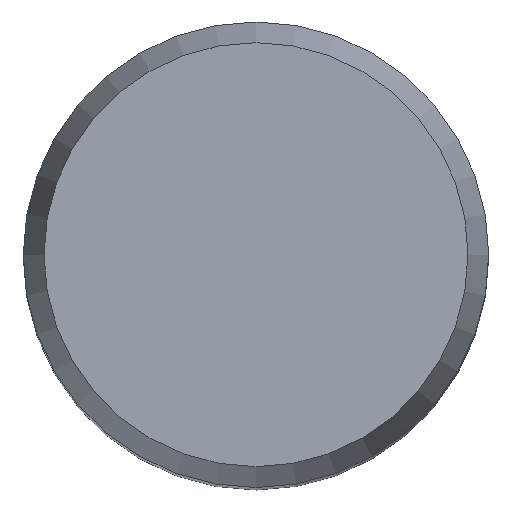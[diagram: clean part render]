
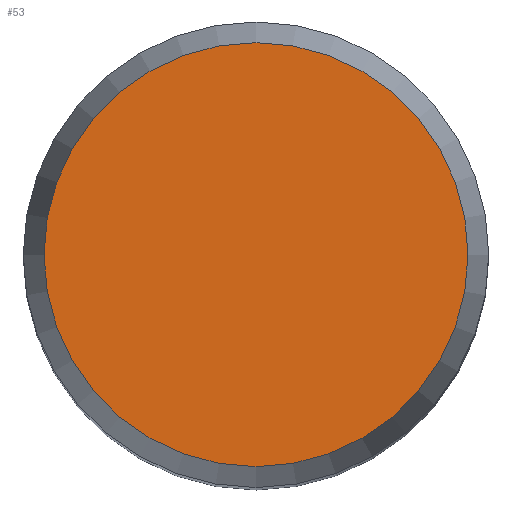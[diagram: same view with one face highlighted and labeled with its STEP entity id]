
A CAD part, top view. The second image highlights one B-rep face of the part: STEP entity #53.
In plain terms, the highlighted planar face has unit normal (0, 0, 1).
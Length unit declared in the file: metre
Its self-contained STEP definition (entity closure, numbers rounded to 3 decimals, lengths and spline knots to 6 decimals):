
#15=ORIENTED_EDGE('',*,*,#23,.F.);
#23=EDGE_CURVE('',#27,#27,#31,.T.);
#27=VERTEX_POINT('',#103);
#31=CIRCLE('',#72,0.001366);
#35=EDGE_LOOP('',(#15));
#43=FACE_BOUND('',#35,.T.);
#51=PLANE('',#71);
#53=ADVANCED_FACE('',(#43),#51,.F.);
#71=AXIS2_PLACEMENT_3D('',#101,#82,#83);
#72=AXIS2_PLACEMENT_3D('',#102,#84,#85);
#82=DIRECTION('',(0.,0.,-1.));
#83=DIRECTION('',(-1.,0.,0.));
#84=DIRECTION('',(0.,0.,-1.));
#85=DIRECTION('',(-1.,0.,0.));
#101=CARTESIAN_POINT('',(-0.000683,0.,0.005));
#102=CARTESIAN_POINT('',(0.,0.,0.005));
#103=CARTESIAN_POINT('',(-0.001366,0.,0.005));
